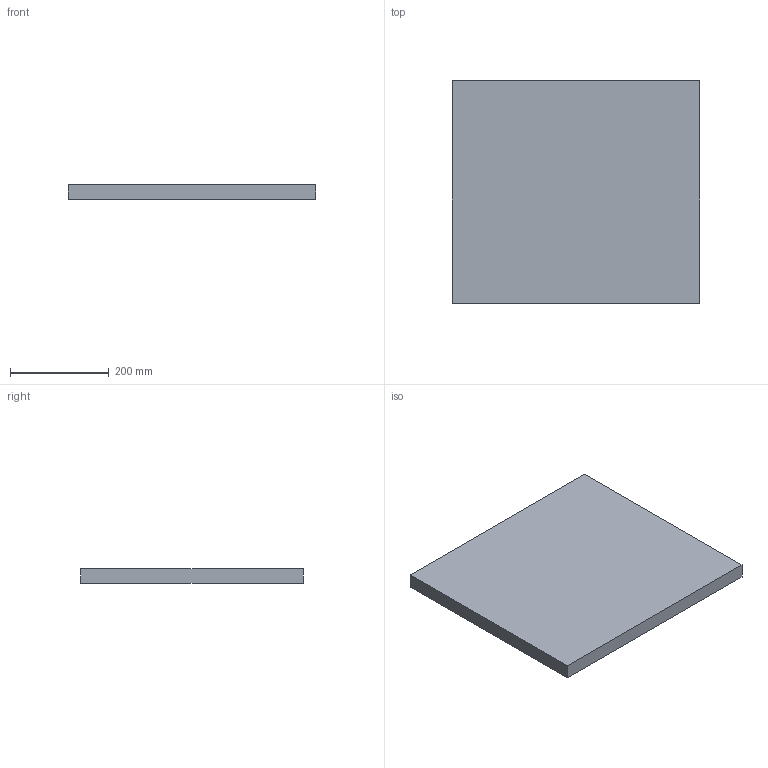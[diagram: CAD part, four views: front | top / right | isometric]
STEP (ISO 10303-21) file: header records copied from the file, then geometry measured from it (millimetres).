
FILE_DESCRIPTION(('Open CASCADE Model'),'2;1');
FILE_NAME('Open CASCADE Shape Model','2026-10-28T20:19:03',('Author'),( 'Open CASCADE'),'Open CASCADE STEP processor 7.8','Open CASCADE 7.8' ,'Unknown');
FILE_SCHEMA(('AUTOMOTIVE_DESIGN { 1 0 10303 214 1 1 1 1 }'));
Length unit declared in the file: millimetre
Products named in the file (1): Open CASCADE STEP translator 7.8 31
Bounding box: 500 x 450 x 30 mm (x, y, z)
Volume: 6750000 mm3; surface area: 507000 mm2
Topology: 1 solids, 1 shells, 6 faces, 12 edges, 8 vertices
Faces by surface type: plane 6
Entity records: 322 total; most frequent: CARTESIAN_POINT 51, DIRECTION 50, LINE 36, VECTOR 36, ORIENTED_EDGE 24, PCURVE 24, DEFINITIONAL_REPRESENTATION 24, EDGE_CURVE 12
